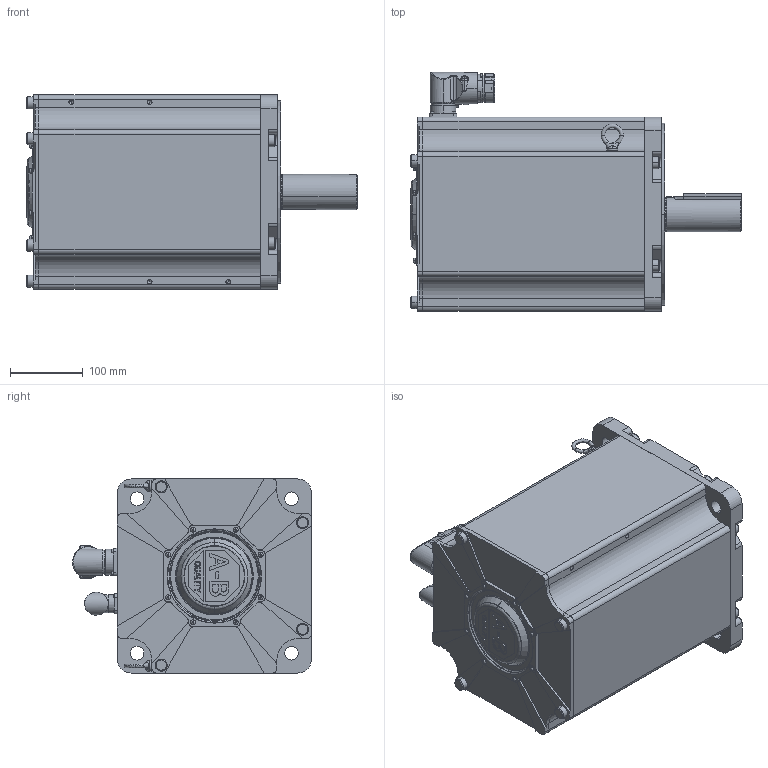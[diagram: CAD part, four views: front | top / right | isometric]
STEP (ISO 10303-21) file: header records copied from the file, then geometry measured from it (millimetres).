
FILE_DESCRIPTION (( 'STEP AP214' ), '1' );
FILE_NAME ('Rockwell Automation-MPL-x980x-xJ72AA.STEP', '2015-06-12T16:38:04', ( 'Windows User' ), ( '' ), 'SwSTEP 2.0', 'SolidWorks 2015', '' );
FILE_SCHEMA (( 'AUTOMOTIVE_DESIGN' ));
Length unit declared in the file: inch
Products named in the file (6): Rockwell Automation-MPL-x980x-xJ72AA_MPL-9xx-Eyebolt; Rockwell Automation-MPL-x980x-xJ72AA_MPL-9xx-Encoder Connector; Rockwell Automation-MPL-x980x-xJ72AA_MPL-9xx-Power Connector-M40; Rockwell Automation-MPL-x980x-xJ72AA_MPL-9xx-Shaft-Key_980-shaft-keyed; Rockwell Automation-MPL-x980x-xJ72AA_MPL-9xx-Body_980; Rockwell Automation-MPL-x980x-xJ72AA
Assembly tree (6 placements, depth 2):
  Rockwell Automation-MPL-x980x-xJ72AA
    Rockwell Automation-MPL-x980x-xJ72AA_MPL-9xx-Body_980
    Rockwell Automation-MPL-x980x-xJ72AA_MPL-9xx-Shaft-Key_980-shaft-keyed
    Rockwell Automation-MPL-x980x-xJ72AA_MPL-9xx-Power Connector-M40
    Rockwell Automation-MPL-x980x-xJ72AA_MPL-9xx-Encoder Connector
    Rockwell Automation-MPL-x980x-xJ72AA_MPL-9xx-Eyebolt  x2
Bounding box: 454.15 x 328.16 x 266.7 mm (x, y, z)
Volume: 12917420.8 mm3; surface area: 1163427.1 mm2
Topology: 9 solids, 9 shells, 1028 faces, 2531 edges, 1611 vertices
Faces by surface type: plane 430, cylinder 355, torus 108, cone 84, bspline 51
Entity records: 35815 total; most frequent: CARTESIAN_POINT 9398, DIRECTION 5225, ORIENTED_EDGE 4940, EDGE_CURVE 2470, AXIS2_PLACEMENT_3D 1945, VERTEX_POINT 1585, VECTOR 1335, LINE 1335
